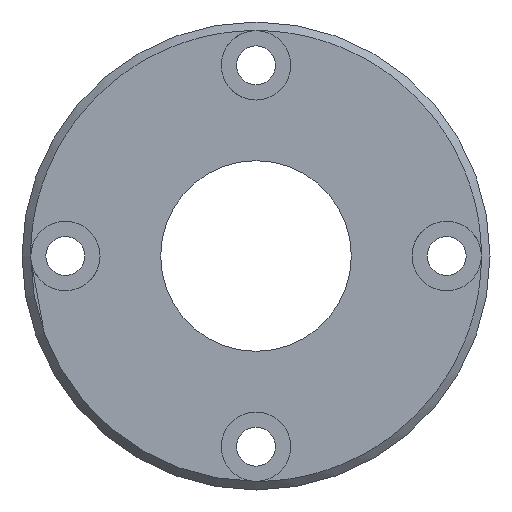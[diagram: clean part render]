
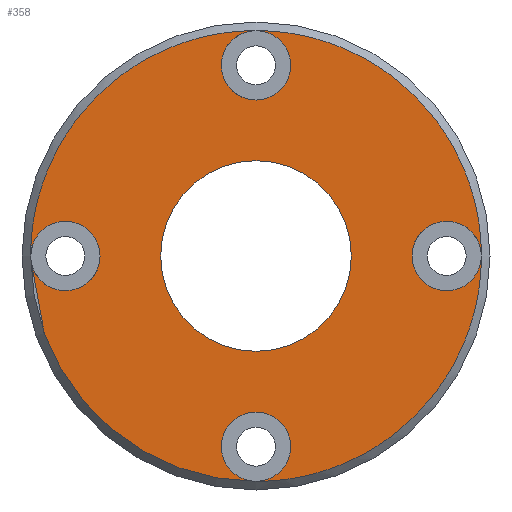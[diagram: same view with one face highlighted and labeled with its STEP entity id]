
A CAD part, left-side view. The second image highlights one B-rep face of the part: STEP entity #358.
In plain terms, the highlighted planar face has unit normal (-1, 0, 0).
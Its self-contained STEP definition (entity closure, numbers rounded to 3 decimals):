
#63=FACE_BOUND('',#108,.T.);
#81=FACE_OUTER_BOUND('',#107,.T.);
#107=EDGE_LOOP('',(#276,#277,#278,#279,#280,#281,#282,#283,#284,#285,#286,
#287));
#108=EDGE_LOOP('',(#288));
#132=CIRCLE('',#399,4.);
#133=CIRCLE('',#400,4.);
#137=CIRCLE('',#407,4.);
#138=CIRCLE('',#408,4.);
#142=CIRCLE('',#415,4.);
#143=CIRCLE('',#416,4.);
#145=CIRCLE('',#420,26.);
#146=CIRCLE('',#421,4.);
#147=CIRCLE('',#422,4.);
#148=CIRCLE('',#423,26.);
#149=CIRCLE('',#424,26.);
#150=CIRCLE('',#425,26.);
#151=CIRCLE('',#426,11.);
#166=VERTEX_POINT('',#590);
#167=VERTEX_POINT('',#591);
#171=VERTEX_POINT('',#605);
#172=VERTEX_POINT('',#606);
#176=VERTEX_POINT('',#620);
#177=VERTEX_POINT('',#621);
#179=VERTEX_POINT('',#630);
#180=VERTEX_POINT('',#632);
#181=VERTEX_POINT('',#638);
#196=EDGE_CURVE('',#166,#167,#132,.T.);
#197=EDGE_CURVE('',#167,#166,#133,.T.);
#203=EDGE_CURVE('',#171,#172,#137,.T.);
#204=EDGE_CURVE('',#172,#171,#138,.T.);
#210=EDGE_CURVE('',#176,#177,#142,.T.);
#211=EDGE_CURVE('',#177,#176,#143,.T.);
#215=EDGE_CURVE('',#179,#176,#145,.T.);
#216=EDGE_CURVE('',#179,#180,#146,.T.);
#217=EDGE_CURVE('',#180,#179,#147,.T.);
#218=EDGE_CURVE('',#166,#179,#148,.T.);
#219=EDGE_CURVE('',#171,#166,#149,.T.);
#220=EDGE_CURVE('',#176,#171,#150,.T.);
#221=EDGE_CURVE('',#181,#181,#151,.T.);
#276=ORIENTED_EDGE('',*,*,#215,.F.);
#277=ORIENTED_EDGE('',*,*,#216,.T.);
#278=ORIENTED_EDGE('',*,*,#217,.T.);
#279=ORIENTED_EDGE('',*,*,#218,.F.);
#280=ORIENTED_EDGE('',*,*,#196,.T.);
#281=ORIENTED_EDGE('',*,*,#197,.T.);
#282=ORIENTED_EDGE('',*,*,#219,.F.);
#283=ORIENTED_EDGE('',*,*,#203,.T.);
#284=ORIENTED_EDGE('',*,*,#204,.T.);
#285=ORIENTED_EDGE('',*,*,#220,.F.);
#286=ORIENTED_EDGE('',*,*,#210,.T.);
#287=ORIENTED_EDGE('',*,*,#211,.T.);
#288=ORIENTED_EDGE('',*,*,#221,.T.);
#344=PLANE('',#419);
#358=ADVANCED_FACE('',(#81,#63),#344,.T.);
#399=AXIS2_PLACEMENT_3D('',#592,#462,#463);
#400=AXIS2_PLACEMENT_3D('',#593,#464,#465);
#407=AXIS2_PLACEMENT_3D('',#607,#480,#481);
#408=AXIS2_PLACEMENT_3D('',#608,#482,#483);
#415=AXIS2_PLACEMENT_3D('',#622,#498,#499);
#416=AXIS2_PLACEMENT_3D('',#623,#500,#501);
#419=AXIS2_PLACEMENT_3D('',#629,#508,#509);
#420=AXIS2_PLACEMENT_3D('',#631,#510,#511);
#421=AXIS2_PLACEMENT_3D('',#633,#512,#513);
#422=AXIS2_PLACEMENT_3D('',#634,#514,#515);
#423=AXIS2_PLACEMENT_3D('',#635,#516,#517);
#424=AXIS2_PLACEMENT_3D('',#636,#518,#519);
#425=AXIS2_PLACEMENT_3D('',#637,#520,#521);
#426=AXIS2_PLACEMENT_3D('',#639,#522,#523);
#462=DIRECTION('center_axis',(1.,0.,0.));
#463=DIRECTION('ref_axis',(0.,1.,0.));
#464=DIRECTION('center_axis',(1.,0.,0.));
#465=DIRECTION('ref_axis',(0.,1.,0.));
#480=DIRECTION('center_axis',(1.,0.,0.));
#481=DIRECTION('ref_axis',(0.,0.,-1.));
#482=DIRECTION('center_axis',(1.,0.,0.));
#483=DIRECTION('ref_axis',(0.,0.,-1.));
#498=DIRECTION('center_axis',(1.,0.,0.));
#499=DIRECTION('ref_axis',(0.,-1.,0.));
#500=DIRECTION('center_axis',(1.,0.,0.));
#501=DIRECTION('ref_axis',(0.,-1.,0.));
#508=DIRECTION('center_axis',(-1.,0.,0.));
#509=DIRECTION('ref_axis',(0.,0.,1.));
#510=DIRECTION('center_axis',(1.,0.,0.));
#511=DIRECTION('ref_axis',(0.,0.,-1.));
#512=DIRECTION('center_axis',(1.,0.,0.));
#513=DIRECTION('ref_axis',(0.,0.,1.));
#514=DIRECTION('center_axis',(1.,0.,0.));
#515=DIRECTION('ref_axis',(0.,0.,1.));
#516=DIRECTION('center_axis',(1.,0.,0.));
#517=DIRECTION('ref_axis',(0.,0.,-1.));
#518=DIRECTION('center_axis',(1.,0.,0.));
#519=DIRECTION('ref_axis',(0.,0.,-1.));
#520=DIRECTION('center_axis',(1.,0.,0.));
#521=DIRECTION('ref_axis',(0.,0.,-1.));
#522=DIRECTION('center_axis',(1.,0.,0.));
#523=DIRECTION('ref_axis',(0.,0.,-1.));
#590=CARTESIAN_POINT('',(0.,26.,0.));
#591=CARTESIAN_POINT('',(0.,18.,0.));
#592=CARTESIAN_POINT('Origin',(0.,22.,0.));
#593=CARTESIAN_POINT('Origin',(0.,22.,0.));
#605=CARTESIAN_POINT('',(0.,0.,-26.));
#606=CARTESIAN_POINT('',(0.,0.,-18.));
#607=CARTESIAN_POINT('Origin',(0.,0.,-22.));
#608=CARTESIAN_POINT('Origin',(0.,0.,-22.));
#620=CARTESIAN_POINT('',(0.,-26.,0.));
#621=CARTESIAN_POINT('',(0.,-18.,0.));
#622=CARTESIAN_POINT('Origin',(0.,-22.,0.));
#623=CARTESIAN_POINT('Origin',(0.,-22.,0.));
#629=CARTESIAN_POINT('Origin',(0.,26.,0.));
#630=CARTESIAN_POINT('',(0.,0.,26.));
#631=CARTESIAN_POINT('Origin',(0.,0.,0.));
#632=CARTESIAN_POINT('',(0.,0.,18.));
#633=CARTESIAN_POINT('Origin',(0.,0.,22.));
#634=CARTESIAN_POINT('Origin',(0.,0.,22.));
#635=CARTESIAN_POINT('Origin',(0.,0.,0.));
#636=CARTESIAN_POINT('Origin',(0.,0.,0.));
#637=CARTESIAN_POINT('Origin',(0.,0.,0.));
#638=CARTESIAN_POINT('',(0.,-11.,0.));
#639=CARTESIAN_POINT('Origin',(0.,0.,0.));
